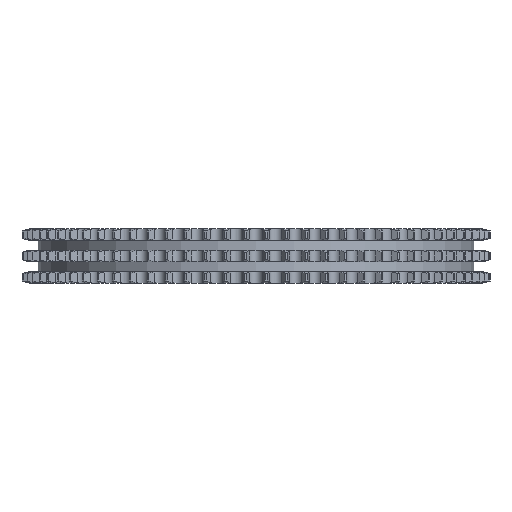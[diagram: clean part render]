
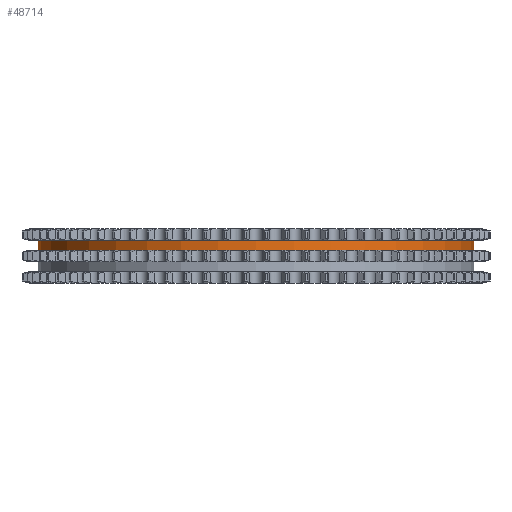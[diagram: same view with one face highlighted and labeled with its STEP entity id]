
A CAD part, left-side view. The second image highlights one B-rep face of the part: STEP entity #48714.
In plain terms, the highlighted cylindrical face has radius 103.183 mm (diameter 206.366 mm), a partial arc.
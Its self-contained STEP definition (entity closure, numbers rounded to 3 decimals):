
#8837=DIRECTION('',(0.,0.,-1.));
#8838=VECTOR('',#8837,4.85);
#8839=CARTESIAN_POINT('',(0.,103.183,7.5));
#8840=LINE('',#8839,#8838);
#8844=CARTESIAN_POINT('',(0.,0.,7.5));
#8845=DIRECTION('',(0.,0.,1.));
#8846=DIRECTION('',(0.,1.,0.));
#8847=AXIS2_PLACEMENT_3D('',#8844,#8845,#8846);
#8852=DIRECTION('',(0.,0.,-1.));
#8853=VECTOR('',#8852,4.85);
#8854=CARTESIAN_POINT('',(0.,-103.183,7.5));
#8855=LINE('',#8854,#8853);
#8859=CARTESIAN_POINT('',(0.,0.,2.65));
#8860=DIRECTION('',(0.,0.,1.));
#8861=DIRECTION('',(0.,1.,0.));
#8862=AXIS2_PLACEMENT_3D('',#8859,#8860,#8861);
#39530=CARTESIAN_POINT('',(0.,103.183,7.5));
#39531=CARTESIAN_POINT('',(0.,103.183,2.65));
#39532=VERTEX_POINT('',#39530);
#39533=VERTEX_POINT('',#39531);
#39534=CARTESIAN_POINT('',(0.,-103.183,7.5));
#39535=CARTESIAN_POINT('',(0.,-103.183,2.65));
#39536=VERTEX_POINT('',#39534);
#39537=VERTEX_POINT('',#39535);
#48702=CARTESIAN_POINT('',(0.,0.,8.25));
#48703=DIRECTION('',(0.,0.,-1.));
#48704=DIRECTION('',(0.,-1.,0.));
#48705=AXIS2_PLACEMENT_3D('',#48702,#48703,#48704);
#48706=CYLINDRICAL_SURFACE('',#48705,103.183);
#48707=ORIENTED_EDGE('',*,*,#48692,.F.);
#48708=ORIENTED_EDGE('',*,*,#48682,.T.);
#48709=ORIENTED_EDGE('',*,*,#48696,.T.);
#48711=ORIENTED_EDGE('',*,*,#48710,.F.);
#48712=EDGE_LOOP('',(#48707,#48708,#48709,#48711));
#48713=FACE_OUTER_BOUND('',#48712,.F.);
#48714=ADVANCED_FACE('',(#48713),#48706,.T.);
#8848=CIRCLE('',#8847,103.183);
#8863=CIRCLE('',#8862,103.183);
#48682=EDGE_CURVE('',#39532,#39536,#8848,.T.);
#48692=EDGE_CURVE('',#39532,#39533,#8840,.T.);
#48696=EDGE_CURVE('',#39536,#39537,#8855,.T.);
#48710=EDGE_CURVE('',#39533,#39537,#8863,.T.);
